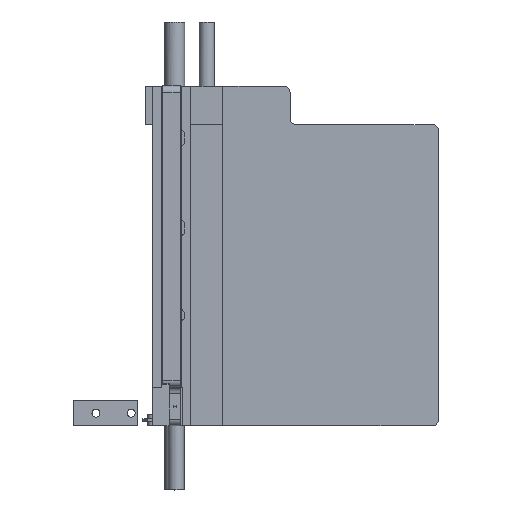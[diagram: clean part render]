
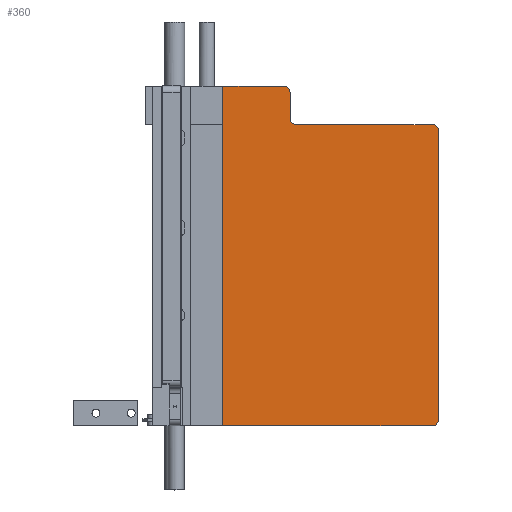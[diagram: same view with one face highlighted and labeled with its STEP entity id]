
A CAD part, top view. The second image highlights one B-rep face of the part: STEP entity #360.
In plain terms, the highlighted planar face has unit normal (0, 0, 1).
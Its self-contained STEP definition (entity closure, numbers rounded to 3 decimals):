
#360 = ADVANCED_FACE( '', ( #539 ), #540, .F. );
#539 = FACE_OUTER_BOUND( '', #815, .T. );
#540 = PLANE( '', #816 );
#815 = EDGE_LOOP( '', ( #1278, #1279, #1280, #1281, #1282, #1283, #1284, #1285, #1286, #1287 ) );
#816 = AXIS2_PLACEMENT_3D( '', #1288, #1289, #1290 );
#1278 = ORIENTED_EDGE( '', *, *, #1897, .T. );
#1279 = ORIENTED_EDGE( '', *, *, #1898, .T. );
#1280 = ORIENTED_EDGE( '', *, *, #1899, .F. );
#1281 = ORIENTED_EDGE( '', *, *, #1900, .F. );
#1282 = ORIENTED_EDGE( '', *, *, #1901, .T. );
#1283 = ORIENTED_EDGE( '', *, *, #1902, .T. );
#1284 = ORIENTED_EDGE( '', *, *, #1903, .T. );
#1285 = ORIENTED_EDGE( '', *, *, #1904, .T. );
#1286 = ORIENTED_EDGE( '', *, *, #1905, .F. );
#1287 = ORIENTED_EDGE( '', *, *, #1906, .T. );
#1288 = CARTESIAN_POINT( '', ( 22., 106., 5.75 ) );
#1289 = DIRECTION( '', ( 0., 0., -1. ) );
#1290 = DIRECTION( '', ( -1., 0., 0. ) );
#1897 = EDGE_CURVE( '', #2212, #2213, #2214, .T. );
#1898 = EDGE_CURVE( '', #2213, #2215, #2216, .F. );
#1899 = EDGE_CURVE( '', #2217, #2215, #2218, .T. );
#1900 = EDGE_CURVE( '', #2219, #2217, #2220, .T. );
#1901 = EDGE_CURVE( '', #2219, #2221, #2222, .T. );
#1902 = EDGE_CURVE( '', #2221, #2223, #2224, .T. );
#1903 = EDGE_CURVE( '', #2223, #2225, #2226, .T. );
#1904 = EDGE_CURVE( '', #2225, #2227, #2228, .F. );
#1905 = EDGE_CURVE( '', #2229, #2227, #2230, .T. );
#1906 = EDGE_CURVE( '', #2229, #2212, #2231, .T. );
#2212 = VERTEX_POINT( '', #2694 );
#2213 = VERTEX_POINT( '', #2695 );
#2214 = LINE( '', #2696, #2697 );
#2215 = VERTEX_POINT( '', #2698 );
#2216 = CIRCLE( '', #2699, 2. );
#2217 = VERTEX_POINT( '', #2700 );
#2218 = LINE( '', #2701, #2702 );
#2219 = VERTEX_POINT( '', #2703 );
#2220 = CIRCLE( '', #2704, 2. );
#2221 = VERTEX_POINT( '', #2705 );
#2222 = LINE( '', #2706, #2707 );
#2223 = VERTEX_POINT( '', #2708 );
#2224 = CIRCLE( '', #2709, 2. );
#2225 = VERTEX_POINT( '', #2710 );
#2226 = LINE( '', #2711, #2712 );
#2227 = VERTEX_POINT( '', #2713 );
#2228 = CIRCLE( '', #2714, 2. );
#2229 = VERTEX_POINT( '', #2715 );
#2230 = LINE( '', #2716, #2717 );
#2231 = LINE( '', #2718, #2719 );
#2694 = CARTESIAN_POINT( '', ( 22., 0., 5.75 ) );
#2695 = CARTESIAN_POINT( '', ( 87.3, 0., 5.75 ) );
#2696 = CARTESIAN_POINT( '', ( 22., 0., 5.75 ) );
#2697 = VECTOR( '', #3236, 1000. );
#2698 = CARTESIAN_POINT( '', ( 89.3, 2., 5.75 ) );
#2699 = AXIS2_PLACEMENT_3D( '', #3237, #3238, #3239 );
#2700 = CARTESIAN_POINT( '', ( 89.3, 92., 5.75 ) );
#2701 = CARTESIAN_POINT( '', ( 89.3, 106., 5.75 ) );
#2702 = VECTOR( '', #3240, 1000. );
#2703 = CARTESIAN_POINT( '', ( 87.3, 94., 5.75 ) );
#2704 = AXIS2_PLACEMENT_3D( '', #3241, #3242, #3243 );
#2705 = CARTESIAN_POINT( '', ( 45., 94., 5.75 ) );
#2706 = CARTESIAN_POINT( '', ( 22., 94., 5.75 ) );
#2707 = VECTOR( '', #3244, 1000. );
#2708 = CARTESIAN_POINT( '', ( 43., 96., 5.75 ) );
#2709 = AXIS2_PLACEMENT_3D( '', #3245, #3246, #3247 );
#2710 = CARTESIAN_POINT( '', ( 43., 104., 5.75 ) );
#2711 = CARTESIAN_POINT( '', ( 43., 106., 5.75 ) );
#2712 = VECTOR( '', #3248, 1000. );
#2713 = CARTESIAN_POINT( '', ( 41., 106., 5.75 ) );
#2714 = AXIS2_PLACEMENT_3D( '', #3249, #3250, #3251 );
#2715 = CARTESIAN_POINT( '', ( 22., 106., 5.75 ) );
#2716 = CARTESIAN_POINT( '', ( 22., 106., 5.75 ) );
#2717 = VECTOR( '', #3252, 1000. );
#2718 = CARTESIAN_POINT( '', ( 22., 106., 5.75 ) );
#2719 = VECTOR( '', #3253, 1000. );
#3236 = DIRECTION( '', ( 1., 0., 0. ) );
#3237 = CARTESIAN_POINT( '', ( 87.3, 2., 5.75 ) );
#3238 = DIRECTION( '', ( 0., 0., -1. ) );
#3239 = DIRECTION( '', ( -1., 0., 0. ) );
#3240 = DIRECTION( '', ( 0., -1., 0. ) );
#3241 = CARTESIAN_POINT( '', ( 87.3, 92., 5.75 ) );
#3242 = DIRECTION( '', ( 0., 0., -1. ) );
#3243 = DIRECTION( '', ( -1., 0., 0. ) );
#3244 = DIRECTION( '', ( -1., 0., 0. ) );
#3245 = CARTESIAN_POINT( '', ( 45., 96., 5.75 ) );
#3246 = DIRECTION( '', ( 0., 0., -1. ) );
#3247 = DIRECTION( '', ( -1., 0., 0. ) );
#3248 = DIRECTION( '', ( 0., 1., 0. ) );
#3249 = CARTESIAN_POINT( '', ( 41., 104., 5.75 ) );
#3250 = DIRECTION( '', ( 0., 0., -1. ) );
#3251 = DIRECTION( '', ( -1., 0., 0. ) );
#3252 = DIRECTION( '', ( 1., 0., 0. ) );
#3253 = DIRECTION( '', ( 0., -1., 0. ) );
